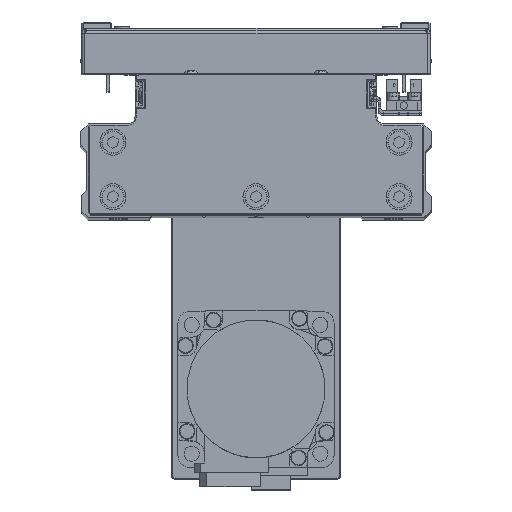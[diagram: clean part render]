
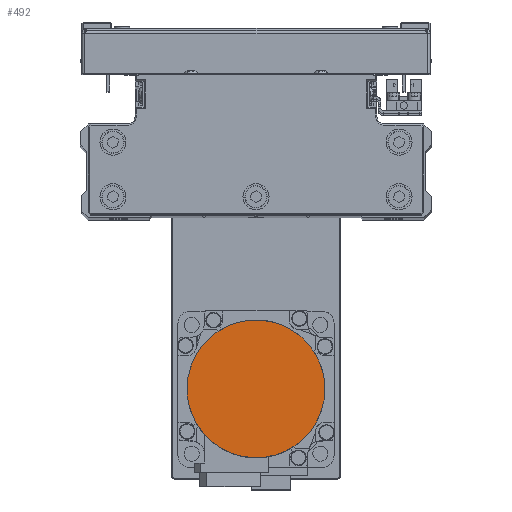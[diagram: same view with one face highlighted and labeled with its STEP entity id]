
A CAD part, top view. The second image highlights one B-rep face of the part: STEP entity #492.
In plain terms, the highlighted planar face has unit normal (0, 0, 1) as drawn and (0, 0, -1) by its records, which use the part's own axes.
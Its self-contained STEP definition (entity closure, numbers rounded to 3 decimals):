
#492 = ADVANCED_FACE ( 'NONE', ( #21199 ), #34676, .F. ) ;
#717 = CARTESIAN_POINT ( 'NONE',  ( -8.539, -25.147, -109.7 ) ) ;
#937 = CARTESIAN_POINT ( 'NONE',  ( 21.07, -16.165, -109.7 ) ) ;
#1668 = CARTESIAN_POINT ( 'NONE',  ( -25.147, -8.539, -109.7 ) ) ;
#2979 = CARTESIAN_POINT ( 'NONE',  ( 21.07, 16.165, -109.7 ) ) ;
#3203 = CARTESIAN_POINT ( 'NONE',  ( -8.539, 25.147, -109.7 ) ) ;
#3419 = CARTESIAN_POINT ( 'NONE',  ( -26.5, 0., -109.7 ) ) ;
#4027 = CARTESIAN_POINT ( 'NONE',  ( -16.165, -21.07, -109.7 ) ) ;
#4242 = CARTESIAN_POINT ( 'NONE',  ( 16.165, -21.07, -109.7 ) ) ;
#4376 = CARTESIAN_POINT ( 'NONE',  ( 0., 0., -109.7 ) ) ;
#4973 = CARTESIAN_POINT ( 'NONE',  ( -26.5, -1.734, -109.7 ) ) ;
#6294 = CARTESIAN_POINT ( 'NONE',  ( 25.147, 8.539, -109.7 ) ) ;
#6502 = CARTESIAN_POINT ( 'NONE',  ( -1.734, 26.5, -109.7 ) ) ;
#6730 = CARTESIAN_POINT ( 'NONE',  ( -25.652, 6.871, -109.7 ) ) ;
#7346 = CARTESIAN_POINT ( 'NONE',  ( -21.07, -16.165, -109.7 ) ) ;
#7560 = CARTESIAN_POINT ( 'NONE',  ( 8.539, -25.147, -109.7 ) ) ;
#7781 = CARTESIAN_POINT ( 'NONE',  ( 26.5, 0., -109.7 ) ) ;
#9622 = CARTESIAN_POINT ( 'NONE',  ( 26.5, 1.734, -109.7 ) ) ;
#9846 = CARTESIAN_POINT ( 'NONE',  ( 6.871, 25.652, -109.7 ) ) ;
#10058 = CARTESIAN_POINT ( 'NONE',  ( -22.998, 13.28, -109.7 ) ) ;
#10904 = CARTESIAN_POINT ( 'NONE',  ( 1.734, -26.5, -109.7 ) ) ;
#11113 = CARTESIAN_POINT ( 'NONE',  ( 25.652, -6.871, -109.7 ) ) ;
#13166 = CARTESIAN_POINT ( 'NONE',  ( 13.28, 22.998, -109.7 ) ) ;
#13386 = CARTESIAN_POINT ( 'NONE',  ( -17.512, 19.965, -109.7 ) ) ;
#14222 = CARTESIAN_POINT ( 'NONE',  ( -6.871, -25.652, -109.7 ) ) ;
#14448 = CARTESIAN_POINT ( 'NONE',  ( 22.998, -13.28, -109.7 ) ) ;
#15001 = B_SPLINE_CURVE_WITH_KNOTS ( 'NONE', 3,
 ( #39887, #9622, #23118, #36592, #6294, #19803, #33272, #2979, #16484, #29963, #43428, #13166, #26642, #40108, #9846, #23336, #36803, #6502, #20018, #33496, #3203, #16699, #30171, #43648, #13386, #26861, #40314, #10058, #23548, #37017, #6730, #20233, #33702, #3419 ),
 .UNSPECIFIED., .F., .F.,
 ( 4, 2, 2, 2, 2, 2, 2, 2, 2, 2, 2, 2, 2, 2, 2, 2, 4 ),
 ( 0., 0.062, 0.125, 0.187, 0.25, 0.312, 0.375, 0.437, 0.5, 0.562, 0.625, 0.687, 0.75, 0.813, 0.875, 0.938, 1. ),
 .UNSPECIFIED. ) ;
#16484 = CARTESIAN_POINT ( 'NONE',  ( 19.965, 17.512, -109.7 ) ) ;
#16699 = CARTESIAN_POINT ( 'NONE',  ( -11.744, 23.819, -109.7 ) ) ;
#17531 = CARTESIAN_POINT ( 'NONE',  ( -13.28, -22.998, -109.7 ) ) ;
#17742 = CARTESIAN_POINT ( 'NONE',  ( 17.512, -19.965, -109.7 ) ) ;
#17877 = DIRECTION ( 'NONE',  ( 0., 0., 1. ) ) ;
#18089 = CARTESIAN_POINT ( 'NONE',  ( -26.5, 0., -109.7 ) ) ;
#18477 = CARTESIAN_POINT ( 'NONE',  ( -26.329, -3.469, -109.7 ) ) ;
#18878 = VERTEX_POINT ( 'NONE', #31380 ) ;
#19803 = CARTESIAN_POINT ( 'NONE',  ( 23.819, 11.744, -109.7 ) ) ;
#20018 = CARTESIAN_POINT ( 'NONE',  ( -3.469, 26.329, -109.7 ) ) ;
#20233 = CARTESIAN_POINT ( 'NONE',  ( -26.329, 3.469, -109.7 ) ) ;
#20848 = CARTESIAN_POINT ( 'NONE',  ( -19.965, -17.512, -109.7 ) ) ;
#21067 = CARTESIAN_POINT ( 'NONE',  ( 11.744, -23.819, -109.7 ) ) ;
#21199 = FACE_OUTER_BOUND ( 'NONE', #23742, .T. ) ;
#22698 = B_SPLINE_CURVE_WITH_KNOTS ( 'NONE', 3,
 ( #35282, #4973, #18477, #31954, #1668, #24157, #37627, #7346, #20848, #34328, #4027, #17531, #31018, #717, #14222, #27692, #41147, #10904, #24381, #37850, #7560, #21067, #34550, #4242, #17742, #31230, #937, #14448, #27915, #41373, #11113, #24590, #38070, #7781 ),
 .UNSPECIFIED., .F., .F.,
 ( 4, 2, 2, 2, 2, 2, 2, 2, 2, 2, 2, 2, 2, 2, 2, 2, 4 ),
 ( 0., 0.063, 0.125, 0.188, 0.25, 0.312, 0.375, 0.437, 0.5, 0.562, 0.625, 0.687, 0.75, 0.813, 0.875, 0.938, 1. ),
 .UNSPECIFIED. ) ;
#23118 = CARTESIAN_POINT ( 'NONE',  ( 26.329, 3.469, -109.7 ) ) ;
#23336 = CARTESIAN_POINT ( 'NONE',  ( 3.469, 26.329, -109.7 ) ) ;
#23548 = CARTESIAN_POINT ( 'NONE',  ( -23.819, 11.744, -109.7 ) ) ;
#23742 = EDGE_LOOP ( 'NONE', ( #41813, #42347 ) ) ;
#24157 = CARTESIAN_POINT ( 'NONE',  ( -23.819, -11.744, -109.7 ) ) ;
#24381 = CARTESIAN_POINT ( 'NONE',  ( 3.469, -26.329, -109.7 ) ) ;
#24590 = CARTESIAN_POINT ( 'NONE',  ( 26.329, -3.469, -109.7 ) ) ;
#26465 = EDGE_CURVE ( 'NONE', #18878, #37308, #15001, .T. ) ;
#26642 = CARTESIAN_POINT ( 'NONE',  ( 11.744, 23.819, -109.7 ) ) ;
#26861 = CARTESIAN_POINT ( 'NONE',  ( -19.965, 17.512, -109.7 ) ) ;
#27692 = CARTESIAN_POINT ( 'NONE',  ( -3.469, -26.329, -109.7 ) ) ;
#27915 = CARTESIAN_POINT ( 'NONE',  ( 23.819, -11.744, -109.7 ) ) ;
#28338 = AXIS2_PLACEMENT_3D ( 'NONE', #4376, #17877, #31368 ) ;
#29963 = CARTESIAN_POINT ( 'NONE',  ( 17.512, 19.965, -109.7 ) ) ;
#30171 = CARTESIAN_POINT ( 'NONE',  ( -13.28, 22.998, -109.7 ) ) ;
#31018 = CARTESIAN_POINT ( 'NONE',  ( -11.744, -23.819, -109.7 ) ) ;
#31230 = CARTESIAN_POINT ( 'NONE',  ( 19.965, -17.512, -109.7 ) ) ;
#31368 = DIRECTION ( 'NONE',  ( 1., 0., 0. ) ) ;
#31380 = CARTESIAN_POINT ( 'NONE',  ( 26.5, 0., -109.7 ) ) ;
#31954 = CARTESIAN_POINT ( 'NONE',  ( -25.652, -6.871, -109.7 ) ) ;
#33272 = CARTESIAN_POINT ( 'NONE',  ( 22.998, 13.28, -109.7 ) ) ;
#33496 = CARTESIAN_POINT ( 'NONE',  ( -6.871, 25.652, -109.7 ) ) ;
#33702 = CARTESIAN_POINT ( 'NONE',  ( -26.5, 1.734, -109.7 ) ) ;
#34328 = CARTESIAN_POINT ( 'NONE',  ( -17.512, -19.965, -109.7 ) ) ;
#34550 = CARTESIAN_POINT ( 'NONE',  ( 13.28, -22.998, -109.7 ) ) ;
#34676 = PLANE ( 'NONE',  #28338 ) ;
#35282 = CARTESIAN_POINT ( 'NONE',  ( -26.5, 0., -109.7 ) ) ;
#36592 = CARTESIAN_POINT ( 'NONE',  ( 25.652, 6.871, -109.7 ) ) ;
#36803 = CARTESIAN_POINT ( 'NONE',  ( 1.734, 26.5, -109.7 ) ) ;
#37017 = CARTESIAN_POINT ( 'NONE',  ( -25.147, 8.539, -109.7 ) ) ;
#37308 = VERTEX_POINT ( 'NONE', #18089 ) ;
#37627 = CARTESIAN_POINT ( 'NONE',  ( -22.998, -13.28, -109.7 ) ) ;
#37850 = CARTESIAN_POINT ( 'NONE',  ( 6.871, -25.652, -109.7 ) ) ;
#38070 = CARTESIAN_POINT ( 'NONE',  ( 26.5, -1.734, -109.7 ) ) ;
#39061 = EDGE_CURVE ( 'NONE', #37308, #18878, #22698, .T. ) ;
#39887 = CARTESIAN_POINT ( 'NONE',  ( 26.5, 0., -109.7 ) ) ;
#40108 = CARTESIAN_POINT ( 'NONE',  ( 8.539, 25.147, -109.7 ) ) ;
#40314 = CARTESIAN_POINT ( 'NONE',  ( -21.07, 16.165, -109.7 ) ) ;
#41147 = CARTESIAN_POINT ( 'NONE',  ( -1.734, -26.5, -109.7 ) ) ;
#41373 = CARTESIAN_POINT ( 'NONE',  ( 25.147, -8.539, -109.7 ) ) ;
#41813 = ORIENTED_EDGE ( 'NONE', *, *, #26465, .F. ) ;
#42347 = ORIENTED_EDGE ( 'NONE', *, *, #39061, .F. ) ;
#43428 = CARTESIAN_POINT ( 'NONE',  ( 16.165, 21.07, -109.7 ) ) ;
#43648 = CARTESIAN_POINT ( 'NONE',  ( -16.165, 21.07, -109.7 ) ) ;
